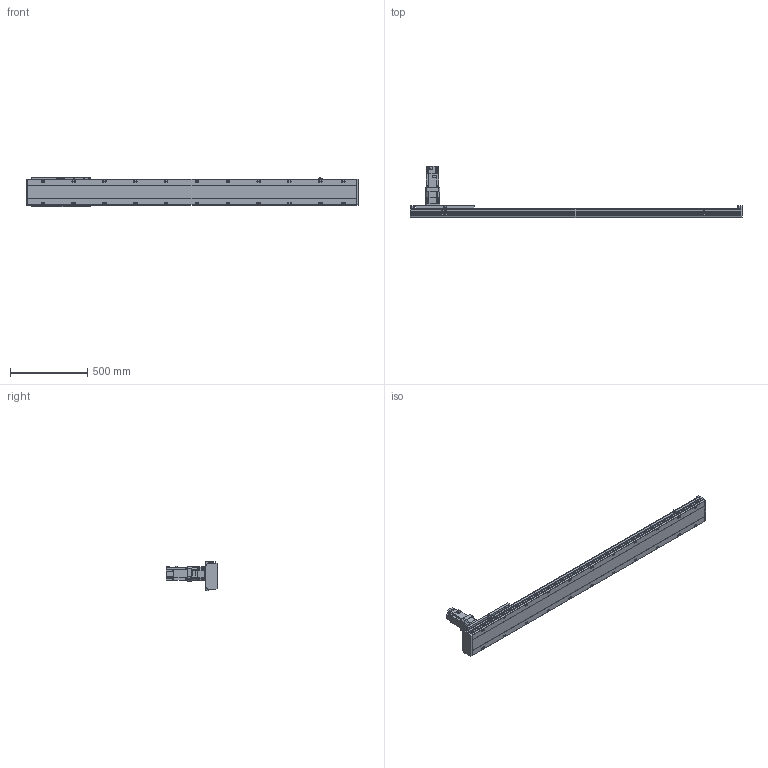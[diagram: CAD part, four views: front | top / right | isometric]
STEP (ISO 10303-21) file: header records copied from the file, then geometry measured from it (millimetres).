
FILE_DESCRIPTION(/* description */ ('STEP AP203'),/* implementation_level */ '2;1');
FILE_NAME(/* name */ 'SHS17A-L13-S1700-BC-T75-C1-N(0)',/* time_stamp */ '2023-03-27T08:57:43+02:00',/* author */ ('License CC BY-ND 4.0'),/* organization */ ('CADENAS'),/* preprocessor_version */ 'ST-DEVELOPER v19.3',/* originating_system */ 'PARTsolutions',/* authorisation */ ' ');
FILE_SCHEMA (('CONFIG_CONTROL_DESIGN'));
Length unit declared in the file: millimetre
Products named in the file (7): SHS17A-L13-S1700-BC-T75-C1-N(0); PSC140-sensor; SHS17A-S1700(0)_body2; T75-p1; SHS17A-S1700_body3; SHS17A-S1700-C1(0)_slider; SHS17A-S1700-C1(0)_body
Assembly tree (13 placements, depth 2):
  SHS17A-L13-S1700-BC-T75-C1-N(0)
    PSC140-sensor  x3
    SHS17A-S1700(0)_body2  x6
    T75-p1
    SHS17A-S1700_body3
    SHS17A-S1700-C1(0)_slider
    SHS17A-S1700-C1(0)_body
Bounding box: 2154 x 333.8 x 193.4 mm (x, y, z)
Volume: 16228368.5 mm3; surface area: 1912790.5 mm2
Topology: 13 solids, 13 shells, 2008 faces, 5086 edges, 3315 vertices
Faces by surface type: plane 1312, cylinder 617, cone 76, torus 3
Full cylindrical faces by diameter (mm): 2.8 x3, 4.134 x24, 4.5 x2, 4.6 x3, 4.917 x15, 5.5 x48, 6 x7, 6.5 x24, 6.647 x30, 6.8 x9, 8 x3, 8.5 x22, 10 x28, 11 x4, 14 x22, 22 x1, 24 x1, 24.2 x1, 28 x1, 28.2 x1, 28.8 x1, 29.8 x1, 48.542 x1, 68 x1, 70 x1, 78 x1, 80 x2
Entity records: 36850 total; most frequent: CARTESIAN_POINT 7018, DIRECTION 6073, ORIENTED_EDGE 5812, EDGE_CURVE 2906, AXIS2_PLACEMENT_3D 2120, VERTEX_POINT 2041, LINE 1833, VECTOR 1833
